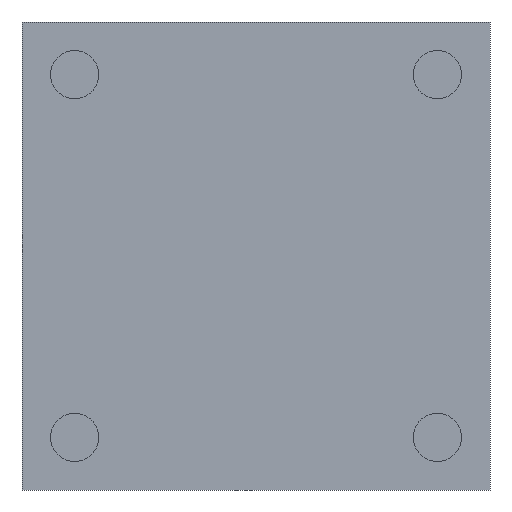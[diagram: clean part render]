
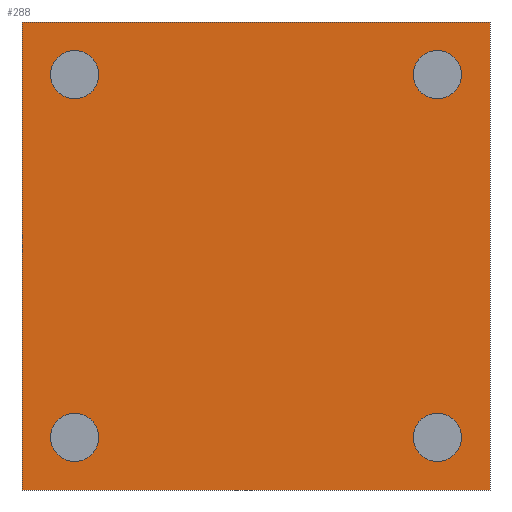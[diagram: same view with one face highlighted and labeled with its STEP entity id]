
A CAD part, front view. The second image highlights one B-rep face of the part: STEP entity #288.
In plain terms, the highlighted planar face has unit normal (0, -1, 0).
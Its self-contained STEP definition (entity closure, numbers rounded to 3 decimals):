
#1=CARTESIAN_POINT('',(23.25,0.,23.25));
#2=DIRECTION('',(0.,1.,0.));
#3=DIRECTION('',(-1.,0.,0.));
#4=AXIS2_PLACEMENT_3D('',#1,#2,#3);
#6=CARTESIAN_POINT('',(23.25,0.,23.25));
#7=DIRECTION('',(0.,1.,0.));
#8=DIRECTION('',(1.,0.,0.));
#9=AXIS2_PLACEMENT_3D('',#6,#7,#8);
#11=CARTESIAN_POINT('',(-23.25,0.,23.25));
#12=DIRECTION('',(0.,-1.,0.));
#13=DIRECTION('',(1.,0.,0.));
#14=AXIS2_PLACEMENT_3D('',#11,#12,#13);
#16=CARTESIAN_POINT('',(-23.25,0.,23.25));
#17=DIRECTION('',(0.,-1.,0.));
#18=DIRECTION('',(-1.,0.,0.));
#19=AXIS2_PLACEMENT_3D('',#16,#17,#18);
#21=CARTESIAN_POINT('',(-23.25,0.,-23.25));
#22=DIRECTION('',(0.,1.,0.));
#23=DIRECTION('',(1.,0.,0.));
#24=AXIS2_PLACEMENT_3D('',#21,#22,#23);
#26=CARTESIAN_POINT('',(-23.25,0.,-23.25));
#27=DIRECTION('',(0.,1.,0.));
#28=DIRECTION('',(-1.,0.,0.));
#29=AXIS2_PLACEMENT_3D('',#26,#27,#28);
#31=CARTESIAN_POINT('',(23.25,0.,-23.25));
#32=DIRECTION('',(0.,-1.,0.));
#33=DIRECTION('',(-1.,0.,0.));
#34=AXIS2_PLACEMENT_3D('',#31,#32,#33);
#36=CARTESIAN_POINT('',(23.25,0.,-23.25));
#37=DIRECTION('',(0.,-1.,0.));
#38=DIRECTION('',(1.,0.,0.));
#39=AXIS2_PLACEMENT_3D('',#36,#37,#38);
#131=CARTESIAN_POINT('',(-30.,0.,30.));
#133=DIRECTION('',(0.,0.,-1.));
#134=VECTOR('',#133,60.);
#135=CARTESIAN_POINT('',(-30.,0.,30.));
#136=LINE('',#135,#134);
#151=CARTESIAN_POINT('',(-30.,0.,-30.));
#153=DIRECTION('',(0.,0.,1.));
#154=VECTOR('',#153,60.);
#155=CARTESIAN_POINT('',(30.,0.,-30.));
#156=LINE('',#155,#154);
#171=CARTESIAN_POINT('',(30.,0.,30.));
#191=CARTESIAN_POINT('',(30.,0.,-30.));
#197=DIRECTION('',(1.,0.,0.));
#198=VECTOR('',#197,60.);
#199=CARTESIAN_POINT('',(-30.,0.,30.));
#200=LINE('',#199,#198);
#205=DIRECTION('',(1.,0.,0.));
#206=VECTOR('',#205,60.);
#207=CARTESIAN_POINT('',(-30.,0.,-30.));
#208=LINE('',#207,#206);
#210=VERTEX_POINT('',#191);
#215=CARTESIAN_POINT('',(20.15,0.,-23.25));
#216=CARTESIAN_POINT('',(26.35,0.,-23.25));
#217=VERTEX_POINT('',#215);
#218=VERTEX_POINT('',#216);
#220=VERTEX_POINT('',#151);
#225=CARTESIAN_POINT('',(-20.15,0.,-23.25));
#226=CARTESIAN_POINT('',(-26.35,0.,-23.25));
#227=VERTEX_POINT('',#225);
#228=VERTEX_POINT('',#226);
#230=VERTEX_POINT('',#171);
#235=CARTESIAN_POINT('',(20.15,0.,23.25));
#236=CARTESIAN_POINT('',(26.35,0.,23.25));
#237=VERTEX_POINT('',#235);
#238=VERTEX_POINT('',#236);
#240=VERTEX_POINT('',#131);
#245=CARTESIAN_POINT('',(-20.15,0.,23.25));
#246=CARTESIAN_POINT('',(-26.35,0.,23.25));
#247=VERTEX_POINT('',#245);
#248=VERTEX_POINT('',#246);
#249=CARTESIAN_POINT('',(0.,0.,0.));
#250=DIRECTION('',(0.,1.,0.));
#251=DIRECTION('',(1.,0.,0.));
#252=AXIS2_PLACEMENT_3D('',#249,#250,#251);
#253=PLANE('',#252);
#255=ORIENTED_EDGE('',*,*,#254,.F.);
#257=ORIENTED_EDGE('',*,*,#256,.T.);
#259=ORIENTED_EDGE('',*,*,#258,.F.);
#261=ORIENTED_EDGE('',*,*,#260,.F.);
#262=EDGE_LOOP('',(#255,#257,#259,#261));
#263=FACE_OUTER_BOUND('',#262,.F.);
#265=ORIENTED_EDGE('',*,*,#264,.F.);
#267=ORIENTED_EDGE('',*,*,#266,.F.);
#268=EDGE_LOOP('',(#265,#267));
#269=FACE_BOUND('',#268,.F.);
#271=ORIENTED_EDGE('',*,*,#270,.T.);
#273=ORIENTED_EDGE('',*,*,#272,.T.);
#274=EDGE_LOOP('',(#271,#273));
#275=FACE_BOUND('',#274,.F.);
#277=ORIENTED_EDGE('',*,*,#276,.F.);
#279=ORIENTED_EDGE('',*,*,#278,.F.);
#280=EDGE_LOOP('',(#277,#279));
#281=FACE_BOUND('',#280,.F.);
#283=ORIENTED_EDGE('',*,*,#282,.T.);
#285=ORIENTED_EDGE('',*,*,#284,.T.);
#286=EDGE_LOOP('',(#283,#285));
#287=FACE_BOUND('',#286,.F.);
#288=ADVANCED_FACE('',(#263,#269,#275,#281,#287),#253,.F.);
#5=CIRCLE('',#4,3.1);
#10=CIRCLE('',#9,3.1);
#15=CIRCLE('',#14,3.1);
#20=CIRCLE('',#19,3.1);
#25=CIRCLE('',#24,3.1);
#30=CIRCLE('',#29,3.1);
#35=CIRCLE('',#34,3.1);
#40=CIRCLE('',#39,3.1);
#254=EDGE_CURVE('',#240,#220,#136,.T.);
#256=EDGE_CURVE('',#240,#230,#200,.T.);
#258=EDGE_CURVE('',#210,#230,#156,.T.);
#260=EDGE_CURVE('',#220,#210,#208,.T.);
#264=EDGE_CURVE('',#237,#238,#5,.T.);
#266=EDGE_CURVE('',#238,#237,#10,.T.);
#270=EDGE_CURVE('',#247,#248,#15,.T.);
#272=EDGE_CURVE('',#248,#247,#20,.T.);
#276=EDGE_CURVE('',#227,#228,#25,.T.);
#278=EDGE_CURVE('',#228,#227,#30,.T.);
#282=EDGE_CURVE('',#217,#218,#35,.T.);
#284=EDGE_CURVE('',#218,#217,#40,.T.);
